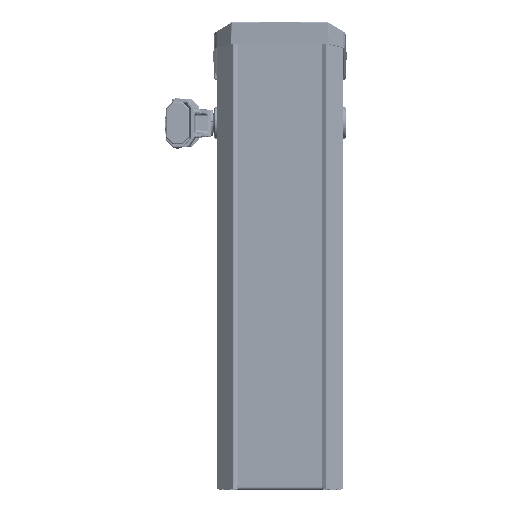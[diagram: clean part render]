
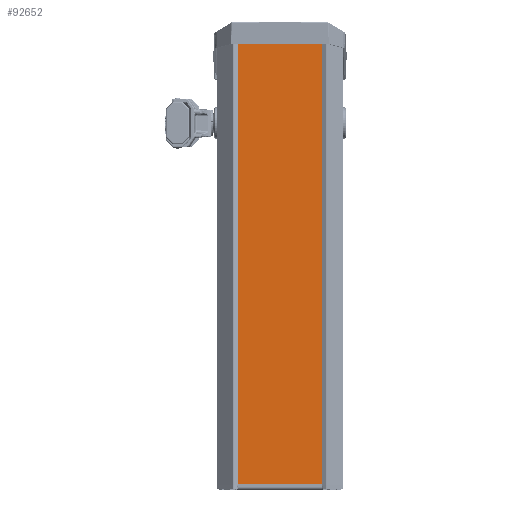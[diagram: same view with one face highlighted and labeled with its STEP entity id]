
A CAD part, front view. The second image highlights one B-rep face of the part: STEP entity #92652.
In plain terms, the highlighted planar face has unit normal (0, -1, 0) as drawn and (0, 1, 0) by its records, which use the part's own axes.
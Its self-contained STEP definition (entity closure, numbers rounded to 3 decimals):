
#2099=PLANE('',#103203);
#6981=LINE('',#192857,#14598);
#6983=LINE('',#192861,#14600);
#6986=LINE('',#192867,#14603);
#6991=LINE('',#192878,#14608);
#6995=LINE('',#192893,#14612);
#6996=LINE('',#192894,#14613);
#14598=VECTOR('',#117008,1000.);
#14600=VECTOR('',#117012,1000.);
#14603=VECTOR('',#117017,1000.);
#14608=VECTOR('',#117024,1000.);
#14612=VECTOR('',#117040,1000.);
#14613=VECTOR('',#117041,1000.);
#22814=CIRCLE('',#103204,5.25);
#22815=CIRCLE('',#103205,5.25);
#34124=ORIENTED_EDGE('',*,*,#57876,.T.);
#34125=ORIENTED_EDGE('',*,*,#57877,.T.);
#34126=ORIENTED_EDGE('',*,*,#57870,.F.);
#34127=ORIENTED_EDGE('',*,*,#57878,.T.);
#34128=ORIENTED_EDGE('',*,*,#57865,.F.);
#34129=ORIENTED_EDGE('',*,*,#57862,.F.);
#34130=ORIENTED_EDGE('',*,*,#57860,.F.);
#34131=ORIENTED_EDGE('',*,*,#57879,.T.);
#57860=EDGE_CURVE('',#70316,#70317,#6981,.T.);
#57862=EDGE_CURVE('',#70317,#70318,#6983,.T.);
#57865=EDGE_CURVE('',#70318,#70320,#6986,.T.);
#57870=EDGE_CURVE('',#70324,#70325,#6991,.T.);
#57876=EDGE_CURVE('',#70328,#70328,#22814,.T.);
#57877=EDGE_CURVE('',#70329,#70329,#22815,.T.);
#57878=EDGE_CURVE('',#70324,#70320,#6995,.F.);
#57879=EDGE_CURVE('',#70316,#70325,#6996,.F.);
#70316=VERTEX_POINT('',#192856);
#70317=VERTEX_POINT('',#192858);
#70318=VERTEX_POINT('',#192862);
#70320=VERTEX_POINT('',#192868);
#70324=VERTEX_POINT('',#192877);
#70325=VERTEX_POINT('',#192879);
#70328=VERTEX_POINT('',#192890);
#70329=VERTEX_POINT('',#192892);
#80093=EDGE_LOOP('',(#34124));
#80094=EDGE_LOOP('',(#34125));
#80095=EDGE_LOOP('',(#34126,#34127,#34128,#34129,#34130,#34131));
#86161=FACE_BOUND('',#80093,.T.);
#86162=FACE_BOUND('',#80094,.T.);
#86163=FACE_BOUND('',#80095,.T.);
#92652=ADVANCED_FACE('',(#86161,#86162,#86163),#2099,.F.);
#103203=AXIS2_PLACEMENT_3D('',#192888,#117034,#117035);
#103204=AXIS2_PLACEMENT_3D('',#192889,#117036,#117037);
#103205=AXIS2_PLACEMENT_3D('',#192891,#117038,#117039);
#117008=DIRECTION('',(0.,0.,-1.));
#117012=DIRECTION('',(1.,0.,0.));
#117017=DIRECTION('',(0.,0.,1.));
#117024=DIRECTION('',(-1.,0.,0.));
#117034=DIRECTION('',(0.,-1.,0.));
#117035=DIRECTION('',(0.,0.,-1.));
#117036=DIRECTION('',(0.,-1.,0.));
#117037=DIRECTION('',(0.,0.,-1.));
#117038=DIRECTION('',(0.,-1.,0.));
#117039=DIRECTION('',(0.,0.,-1.));
#117040=DIRECTION('',(-0.707,0.,0.707));
#117041=DIRECTION('',(-0.707,0.,-0.707));
#192856=CARTESIAN_POINT('',(-108.3,0.,1060.));
#192857=CARTESIAN_POINT('',(-108.3,0.,1062.));
#192858=CARTESIAN_POINT('',(-108.3,0.,0.));
#192861=CARTESIAN_POINT('',(-108.3,0.,0.));
#192862=CARTESIAN_POINT('',(108.3,0.,0.));
#192867=CARTESIAN_POINT('',(108.3,0.,0.));
#192868=CARTESIAN_POINT('',(108.3,0.,1060.));
#192877=CARTESIAN_POINT('',(106.3,0.,1062.));
#192878=CARTESIAN_POINT('',(108.3,0.,1062.));
#192879=CARTESIAN_POINT('',(-106.3,0.,1062.));
#192888=CARTESIAN_POINT('',(-108.3,0.,0.));
#192889=CARTESIAN_POINT('',(-85.,0.,7.));
#192890=CARTESIAN_POINT('',(-85.,0.,1.75));
#192891=CARTESIAN_POINT('',(85.,0.,7.));
#192892=CARTESIAN_POINT('',(85.,0.,1.75));
#192893=CARTESIAN_POINT('',(106.3,0.,1062.));
#192894=CARTESIAN_POINT('',(-108.3,0.,1060.));
